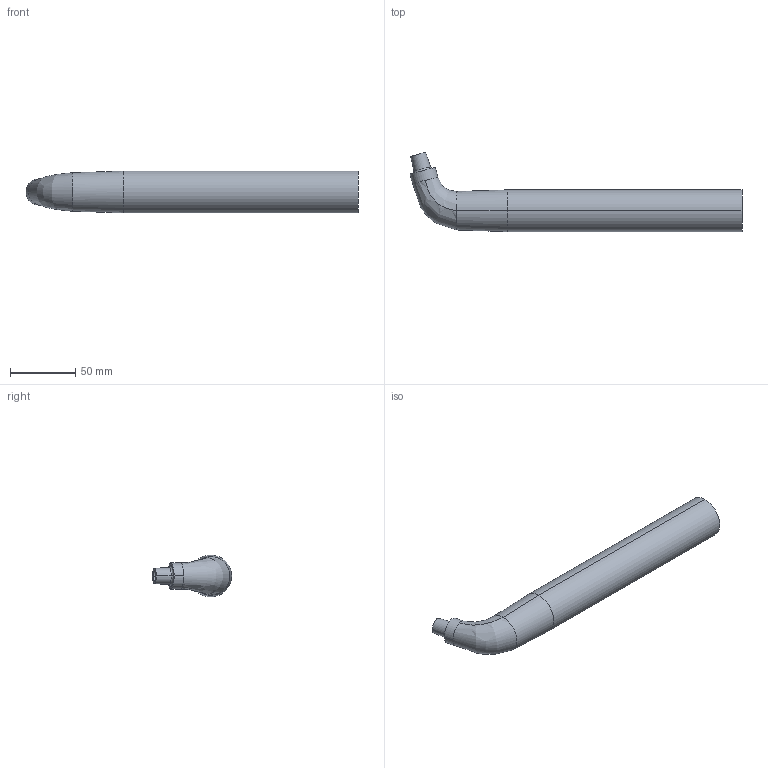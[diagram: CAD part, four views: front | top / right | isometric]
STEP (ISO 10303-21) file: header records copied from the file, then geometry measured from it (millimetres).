
FILE_DESCRIPTION( (''), '2;1');
FILE_NAME ('SY-2080-21_TB-32250-15-C2.stp','2022-04-10T00:12:21',(''),(''),'spGate 18.9.3 (****-****-****-****)','','');
FILE_SCHEMA (('AUTOMOTIVE_DESIGN'));
Length unit declared in the file: millimetre
Products named in the file (19): Assembly; SY-2080-21_TB-32250-15-C2-prt0; SY-2080-21_TB-32250-15-C2-prt1; SY-2080-21_TB-32250-15-C2-prt2; SY-2080-21_TB-32250-15-C2-prt3; SY-2080-21_TB-32250-15-C2-prt4; SY-2080-21_TB-32250-15-C2-prt5; SY-2080-21_TB-32250-15-C2-prt6; SY-2080-21_TB-32250-15-C2-prt7; SY-2080-21_TB-32250-15-C2-prt8; SY-2080-21_TB-32250-15-C2-prt9; SY-2080-21_TB-32250-15-C2-prt10; SY-2080-21_TB-32250-15-C2-prt11; SY-2080-21_TB-32250-15-C2-prt12; SY-2080-21_TB-32250-15-C2-prt13; SY-2080-21_TB-32250-15-C2-prt14; SY-2080-21_TB-32250-15-C2-prt15; SY-2080-21_TB-32250-15-C2-prt16; SY-2080-21_TB-32250-15-C2-prt17
Assembly tree (18 placements, depth 2):
  Assembly
    SY-2080-21_TB-32250-15-C2-prt0
    SY-2080-21_TB-32250-15-C2-prt1
    SY-2080-21_TB-32250-15-C2-prt2
    SY-2080-21_TB-32250-15-C2-prt3
    SY-2080-21_TB-32250-15-C2-prt4
    SY-2080-21_TB-32250-15-C2-prt5
    SY-2080-21_TB-32250-15-C2-prt6
    SY-2080-21_TB-32250-15-C2-prt7
    SY-2080-21_TB-32250-15-C2-prt8
    SY-2080-21_TB-32250-15-C2-prt9
    SY-2080-21_TB-32250-15-C2-prt10
    SY-2080-21_TB-32250-15-C2-prt11
    SY-2080-21_TB-32250-15-C2-prt12
    SY-2080-21_TB-32250-15-C2-prt13
    SY-2080-21_TB-32250-15-C2-prt14
    SY-2080-21_TB-32250-15-C2-prt15
    SY-2080-21_TB-32250-15-C2-prt16
    SY-2080-21_TB-32250-15-C2-prt17
Bounding box: 254.48 x 60.77 x 32 mm (x, y, z)
Volume: 176149.1 mm3; surface area: 34628.5 mm2
Topology: 1 solids, 1 shells, 35 faces, 104 edges, 89 vertices
Faces by surface type: bspline 16, cylinder 12, plane 7
Entity records: 3474 total; most frequent: CARTESIAN_POINT 1465, DIRECTION 232, ORIENTED_EDGE 172, COLOUR_RGB 139, PRESENTATION_STYLE_ASSIGNMENT 139, STYLED_ITEM 139, AXIS2_PLACEMENT_3D 108, DRAUGHTING_PRE_DEFINED_CURVE_FONT 103
